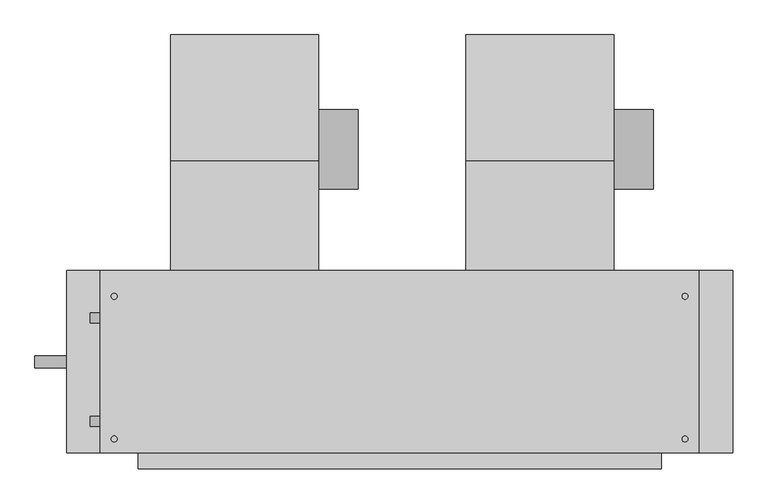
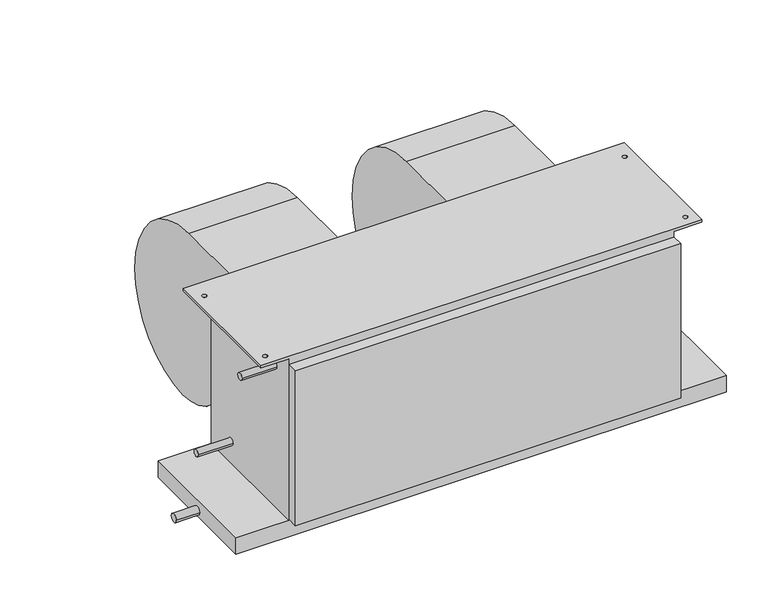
"""IFC4 building model written with IfcOpenShell, lengths in millimetres: proxy geometry, Concealed_High_Capacity_Horizontal_Fan_Coil_Unit_-_42DAA_-_CARRIER_-_2-Pipe_Cool-EHeat_LH_2022 : Size 14 - 277v/60Hz/1Ph - 6 Row 10.0kW."""

from ifc_helpers import new_model, si_unit, point, frame, frame_2d, origin, place, context, project, spatial, polyline, circle_curve, trimmed, segment, composite_curve, outline, extrude, source, transform, mapped, element, save
from ifc_brep_helpers import plane_surface, cylinder_surface, revolved_surface, advanced_brep


def mechanical_equipment_d59f8dc6(model_context):
    return source(origin(), model_context, "Body", "SolidModel", [
        extrude(outline(composite_curve([segment(trimmed(circle_curve(frame_2d((102.0007598, -206.8897468)), 63.5), [point((165.5007598, -206.8897468))], [point((38.5007598, -206.8897468))], False, "CARTESIAN"), True, "CONTINUOUS"), segment(trimmed(circle_curve(frame_2d((102.0007598, -206.8897468)), 63.5), [point((38.5007598, -206.8897468))], [point((165.5007598, -206.8897468))], False, "CARTESIAN"), True, "CONTINUOUS")], self_intersect=False)), frame((22.225, 0.0, 0.0), z_axis=(1.0, 0.0, 0.0), x_axis=(0.0, 1.0, 0.0)), (0.0, 0.0, 1.0), 63.5),
        advanced_brep(
        [(-214.249, 285.5155957, -222.029602), (-214.249, 104.6226, -403.64664), (-214.249, -50.9016, -277.10638), (-214.249, -92.075, -277.10638), (-214.249, -92.075, -19.05), (-214.249, 83.0080093, -19.05), (22.225, 285.5155957, -222.029602), (22.225, 83.0080093, -19.05), (22.225, -92.075, -19.05), (22.225, -92.075, -277.10638), (22.225, -50.9016, -277.10638), (22.225, 104.622599, -403.6457839)],
        [
            (0, 1, circle_curve(frame((-214.249, 104.44226, -222.57258), z_axis=(-1.0, 0.0, 0.0), x_axis=(0.0, -1.0, 0.0)), 181.0741498)),
            (1, 2, circle_curve(frame((-214.249, 104.44226, -245.02364), z_axis=(-1.0, 0.0, 0.0), x_axis=(0.0, -1.0, 0.0)), 158.6222464)),
            (2, 3),
            (3, 4),
            (4, 5),
            (5, 0, circle_curve(frame((-214.249, 81.9912, -222.57258), z_axis=(-1.0, 0.0, 0.0), x_axis=(0.0, -1.0, 0.0)), 203.52512)),
            (6, 7, circle_curve(frame((22.225, 81.9912, -222.57258), z_axis=(1.0, 0.0, 0.0), x_axis=(0.0, -1.0, 0.0)), 203.52512)),
            (7, 8),
            (8, 9),
            (9, 10),
            (10, 11, circle_curve(frame((22.225, 104.44226, -245.02364), z_axis=(1.0, 0.0, 0.0), x_axis=(0.0, -1.0, 0.0)), 158.6222464)),
            (11, 6, circle_curve(frame((22.225, 104.44226, -222.57258), z_axis=(1.0, 0.0, 0.0), x_axis=(0.0, -1.0, 0.0)), 181.0741498)),
            (0, 6),
            (11, 1),
            (10, 2),
            (9, 3),
            (8, 4),
            (7, 5),
        ],
        [
            plane_surface(frame((-214.249, -76.6318898, -222.57258), z_axis=(-1.0, 0.0, 0.0), x_axis=(0.0, 0.0, 1.0))),
            plane_surface(frame((22.225, -76.6318898, -222.57258), z_axis=(1.0, 0.0, 0.0), x_axis=(0.0, 0.0, -1.0))),
            cylinder_surface(frame((22.225, 104.44226, -222.57258), z_axis=(-1.0, 0.0, 0.0), x_axis=(0.0, -1.0, 0.0)), 181.0741498),
            cylinder_surface(frame((22.225, 104.44226, -245.02364), z_axis=(-1.0, 0.0, 0.0), x_axis=(0.0, -1.0, 0.0)), 158.6222464),
            plane_surface(frame((-214.249, -50.9016, -277.10638), z_axis=(0.0, 0.0, -1.0), x_axis=(1.0, 0.0, 0.0))),
            plane_surface(frame((-214.249, -92.075, -277.10638), z_axis=(0.0, -1.0, 0.0), x_axis=(1.0, 0.0, 0.0))),
            plane_surface(frame((-214.249, -92.075, -19.05), z_axis=(0.0, 0.0, 1.0), x_axis=(1.0, 0.0, 0.0))),
            cylinder_surface(frame((22.225, 81.9912, -222.57258), z_axis=(-1.0, 0.0, 0.0), x_axis=(0.0, -1.0, 0.0)), 203.52512),
        ],
        [
            (0, [[1, 2, 3, 4, 5, 6]]),
            (1, [[7, 8, 9, 10, 11, 12]]),
            (2, [[-1, 13, -12, 14]]),
            (3, [[-2, -14, -11, 15]]),
            (4, [[-3, -15, -10, 16]]),
            (5, [[-4, -16, -9, 17]]),
            (6, [[-5, -17, -8, 18]]),
            (7, [[-6, -18, -7, -13]]),
        ],
    ),
        extrude(outline(composite_curve([segment(trimmed(circle_curve(frame_2d((102.0007598, -206.8897468)), 63.5), [point((165.5007598, -206.8897468))], [point((38.5007598, -206.8897468))], False, "CARTESIAN"), True, "CONTINUOUS"), segment(trimmed(circle_curve(frame_2d((102.0007598, -206.8897468)), 63.5), [point((38.5007598, -206.8897468))], [point((165.5007598, -206.8897468))], False, "CARTESIAN"), True, "CONTINUOUS")], self_intersect=False)), frame((495.3, 0.0, 0.0), z_axis=(1.0, 0.0, 0.0), x_axis=(0.0, 1.0, 0.0)), (0.0, 0.0, 1.0), 63.5),
        advanced_brep(
        [(258.826, 285.5155957, -222.029602), (258.826, 104.6226, -403.64664), (258.826, -50.9016, -277.10638), (258.826, -92.075, -277.10638), (258.826, -92.075, -19.05), (258.826, 83.0080093, -19.05), (495.3, 285.5155957, -222.029602), (495.3, 83.0080093, -19.05), (495.3, -92.075, -19.05), (495.3, -92.075, -277.10638), (495.3, -50.9016, -277.10638), (495.3, 104.622599, -403.6457839)],
        [
            (0, 1, circle_curve(frame((258.826, 104.44226, -222.57258), z_axis=(-1.0, 0.0, 0.0), x_axis=(0.0, -1.0, 0.0)), 181.0741498)),
            (1, 2, circle_curve(frame((258.826, 104.44226, -245.02364), z_axis=(-1.0, 0.0, 0.0), x_axis=(0.0, -1.0, 0.0)), 158.6222464)),
            (2, 3),
            (3, 4),
            (4, 5),
            (5, 0, circle_curve(frame((258.826, 81.9912, -222.57258), z_axis=(-1.0, 0.0, 0.0), x_axis=(0.0, -1.0, 0.0)), 203.52512)),
            (6, 7, circle_curve(frame((495.3, 81.9912, -222.57258), z_axis=(1.0, 0.0, 0.0), x_axis=(0.0, -1.0, 0.0)), 203.52512)),
            (7, 8),
            (8, 9),
            (9, 10),
            (10, 11, circle_curve(frame((495.3, 104.44226, -245.02364), z_axis=(1.0, 0.0, 0.0), x_axis=(0.0, -1.0, 0.0)), 158.6222464)),
            (11, 6, circle_curve(frame((495.3, 104.44226, -222.57258), z_axis=(1.0, 0.0, 0.0), x_axis=(0.0, -1.0, 0.0)), 181.0741498)),
            (0, 6),
            (11, 1),
            (10, 2),
            (9, 3),
            (8, 4),
            (7, 5),
        ],
        [
            plane_surface(frame((258.826, -76.6318898, -222.57258), z_axis=(-1.0, 0.0, 0.0), x_axis=(0.0, 0.0, 1.0))),
            plane_surface(frame((495.3, -76.6318898, -222.57258), z_axis=(1.0, 0.0, 0.0), x_axis=(0.0, 0.0, -1.0))),
            cylinder_surface(frame((495.3, 104.44226, -222.57258), z_axis=(-1.0, 0.0, 0.0), x_axis=(0.0, -1.0, 0.0)), 181.0741498),
            cylinder_surface(frame((495.3, 104.44226, -245.02364), z_axis=(-1.0, 0.0, 0.0), x_axis=(0.0, -1.0, 0.0)), 158.6222464),
            plane_surface(frame((258.826, -50.9016, -277.10638), z_axis=(0.0, 0.0, -1.0), x_axis=(1.0, 0.0, 0.0))),
            plane_surface(frame((258.826, -92.075, -277.10638), z_axis=(0.0, -1.0, 0.0), x_axis=(1.0, 0.0, 0.0))),
            plane_surface(frame((258.826, -92.075, -19.05), z_axis=(0.0, 0.0, 1.0), x_axis=(1.0, 0.0, 0.0))),
            cylinder_surface(frame((495.3, 81.9912, -222.57258), z_axis=(-1.0, 0.0, 0.0), x_axis=(0.0, -1.0, 0.0)), 203.52512),
        ],
        [
            (0, [[1, 2, 3, 4, 5, 6]]),
            (1, [[7, 8, 9, 10, 11, 12]]),
            (2, [[-1, 13, -12, 14]]),
            (3, [[-2, -14, -11, 15]]),
            (4, [[-3, -15, -10, 16]]),
            (5, [[-4, -16, -9, 17]]),
            (6, [[-5, -17, -8, 18]]),
            (7, [[-6, -18, -7, -13]]),
        ],
    ),
        advanced_brep(
        [(631.825, -92.075, -6.35), (631.825, -384.175, -6.35), (571.5, -384.175, -6.35), (571.5, -92.075, -6.35), (604.8375, -133.35, -6.35), (614.3625, -133.35, -6.35), (604.8375, -361.95, -6.35), (614.3625, -361.95, -6.35), (-327.025, -92.075, -6.35), (-266.7, -92.075, -6.35), (-266.7, -384.175, -6.35), (-327.025, -384.175, -6.35), (-309.5625, -133.35, -6.35), (-300.0375, -133.35, -6.35), (-309.5625, -361.95, -6.35), (-300.0375, -361.95, -6.35), (631.825, -384.175, 0.0), (631.825, -92.075, 0.0), (-327.025, -92.075, 0.0), (-327.025, -384.175, 0.0), (-300.0375, -133.35, 0.0), (-309.5625, -133.35, 0.0), (-300.0375, -361.95, 0.0), (-309.5625, -361.95, 0.0), (614.3625, -133.35, 0.0), (604.8375, -133.35, 0.0), (614.3625, -361.95, 0.0), (604.8375, -361.95, 0.0), (571.5, -92.075, -377.825), (-266.7, -92.075, -377.825), (-266.7, -384.175, -377.825), (571.5, -384.175, -377.825)],
        [
            (0, 1),
            (1, 2),
            (2, 3),
            (3, 0),
            (4, 5, circle_curve(frame((609.6, -133.35, -6.35), z_axis=(0.0, 0.0, 1.0), x_axis=(1.0, 0.0, 0.0)), 4.7625)),
            (5, 4, circle_curve(frame((609.6, -133.35, -6.35), z_axis=(0.0, 0.0, 1.0), x_axis=(1.0, 0.0, 0.0)), 4.7625)),
            (6, 7, circle_curve(frame((609.6, -361.95, -6.35), z_axis=(0.0, 0.0, 1.0), x_axis=(1.0, 0.0, 0.0)), 4.7625)),
            (7, 6, circle_curve(frame((609.6, -361.95, -6.35), z_axis=(0.0, 0.0, 1.0), x_axis=(1.0, 0.0, 0.0)), 4.7625)),
            (8, 9),
            (9, 10),
            (10, 11),
            (11, 8),
            (12, 13, circle_curve(frame((-304.8, -133.35, -6.35), z_axis=(0.0, 0.0, 1.0), x_axis=(1.0, 0.0, 0.0)), 4.7625)),
            (13, 12, circle_curve(frame((-304.8, -133.35, -6.35), z_axis=(0.0, 0.0, 1.0), x_axis=(1.0, 0.0, 0.0)), 4.7625)),
            (14, 15, circle_curve(frame((-304.8, -361.95, -6.35), z_axis=(0.0, 0.0, 1.0), x_axis=(1.0, 0.0, 0.0)), 4.7625)),
            (15, 14, circle_curve(frame((-304.8, -361.95, -6.35), z_axis=(0.0, 0.0, 1.0), x_axis=(1.0, 0.0, 0.0)), 4.7625)),
            (16, 17),
            (17, 18),
            (18, 19),
            (19, 16),
            (20, 21, circle_curve(frame((-304.8, -133.35, 0.0), z_axis=(0.0, 0.0, -1.0), x_axis=(1.0, 0.0, 0.0)), 4.7625)),
            (21, 20, circle_curve(frame((-304.8, -133.35, 0.0), z_axis=(0.0, 0.0, -1.0), x_axis=(1.0, 0.0, 0.0)), 4.7625)),
            (22, 23, circle_curve(frame((-304.8, -361.95, 0.0), z_axis=(0.0, 0.0, -1.0), x_axis=(1.0, 0.0, 0.0)), 4.7625)),
            (23, 22, circle_curve(frame((-304.8, -361.95, 0.0), z_axis=(0.0, 0.0, -1.0), x_axis=(1.0, 0.0, 0.0)), 4.7625)),
            (24, 25, circle_curve(frame((609.6, -133.35, 0.0), z_axis=(0.0, 0.0, -1.0), x_axis=(1.0, 0.0, 0.0)), 4.7625)),
            (25, 24, circle_curve(frame((609.6, -133.35, 0.0), z_axis=(0.0, 0.0, -1.0), x_axis=(1.0, 0.0, 0.0)), 4.7625)),
            (26, 27, circle_curve(frame((609.6, -361.95, 0.0), z_axis=(0.0, 0.0, -1.0), x_axis=(1.0, 0.0, 0.0)), 4.7625)),
            (27, 26, circle_curve(frame((609.6, -361.95, 0.0), z_axis=(0.0, 0.0, -1.0), x_axis=(1.0, 0.0, 0.0)), 4.7625)),
            (3, 28),
            (28, 29),
            (29, 9),
            (8, 18),
            (17, 0),
            (1, 16),
            (19, 11),
            (10, 30),
            (30, 31),
            (31, 2),
            (28, 31),
            (30, 29),
            (20, 13),
            (12, 21),
            (22, 15),
            (14, 23),
            (24, 5),
            (4, 25),
            (26, 7),
            (6, 27),
        ],
        [
            plane_surface(frame((571.5, -92.075, -6.35), z_axis=(0.0, 0.0, -1.0), x_axis=(1.0, 0.0, 0.0))),
            plane_surface(frame((571.5, -92.075, 0.0), z_axis=(0.0, 0.0, 1.0), x_axis=(-1.0, 0.0, 0.0))),
            plane_surface(frame((631.825, -92.075, 0.0), z_axis=(0.0, 1.0, 0.0), x_axis=(0.0, 0.0, -1.0))),
            plane_surface(frame((571.5, -384.175, 0.0), z_axis=(0.0, -1.0, 0.0), x_axis=(0.0, 0.0, -1.0))),
            plane_surface(frame((631.825, -384.175, 0.0), z_axis=(1.0, 0.0, 0.0), x_axis=(0.0, 0.0, -1.0))),
            plane_surface(frame((-327.025, -92.075, 0.0), z_axis=(-1.0, 0.0, 0.0), x_axis=(0.0, 0.0, -1.0))),
            plane_surface(frame((-266.7, -92.075, -377.825), z_axis=(0.0, 0.0, -1.0), x_axis=(1.0, 0.0, 0.0))),
            plane_surface(frame((-266.7, -92.075, 0.0), z_axis=(-1.0, 0.0, 0.0), x_axis=(0.0, 0.0, -1.0))),
            plane_surface(frame((571.5, -384.175, 0.0), z_axis=(1.0, 0.0, 0.0), x_axis=(0.0, 0.0, -1.0))),
            revolved_surface(polyline([(-300.0375, -133.35, 0.0), (-300.0375, -133.35, -6.35)]), (-304.8, -133.35, -6.35), (0.0, 0.0, 1.0)),
            revolved_surface(polyline([(-300.0375, -361.95, 0.0), (-300.0375, -361.95, -6.35)]), (-304.8, -361.95, 0.0), (0.0, 0.0, 1.0)),
            revolved_surface(polyline([(614.3625000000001, -133.35, 0.0), (614.3625000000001, -133.35, -6.35)]), (609.6, -133.35, 0.0), (0.0, 0.0, 1.0)),
            revolved_surface(polyline([(614.3625000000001, -361.95, 0.0), (614.3625000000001, -361.95, -6.35)]), (609.6, -361.95, 0.0), (0.0, 0.0, 1.0)),
        ],
        [
            (0, [[1, 2, 3, 4], [5, 6], [7, 8]]),
            (0, [[9, 10, 11, 12], [13, 14], [15, 16]]),
            (1, [[17, 18, 19, 20], [21, 22], [23, 24], [25, 26], [27, 28]]),
            (2, [[-4, 29, 30, 31, -9, 32, -18, 33]]),
            (3, [[-2, 34, -20, 35, -11, 36, 37, 38]]),
            (4, [[-1, -33, -17, -34]]),
            (5, [[-12, -35, -19, -32]]),
            (6, [[39, -37, 40, -30]]),
            (7, [[-40, -36, -10, -31]]),
            (8, [[-39, -29, -3, -38]]),
            (9, [[41, -13, 42, -21]]),
            (9, [[-41, -22, -42, -14]]),
            (10, [[43, -15, 44, -23]]),
            (10, [[-43, -24, -44, -16]]),
            (11, [[45, -5, 46, -25]]),
            (11, [[-45, -26, -46, -6]]),
            (12, [[47, -7, 48, -27]]),
            (12, [[-47, -28, -48, -8]]),
        ],
    ),
        extrude(outline(composite_curve([segment(trimmed(circle_curve(frame_2d((-238.125, -403.225)), 9.525), [point((-247.65, -403.225))], [point((-228.6, -403.225))], False, "CARTESIAN"), True, "CONTINUOUS"), segment(trimmed(circle_curve(frame_2d((-238.125, -403.225)), 9.525), [point((-228.6, -403.225))], [point((-247.65, -403.225))], False, "CARTESIAN"), True, "CONTINUOUS")], self_intersect=False)), frame((-431.8, 0.0, 0.0), z_axis=(1.0, 0.0, 0.0), x_axis=(0.0, 1.0, 0.0)), (0.0, 0.0, 1.0), 50.8),
        extrude(outline(composite_curve([segment(trimmed(circle_curve(frame_2d((-333.375, -50.8)), 7.9375), [point((-341.3125, -50.8))], [point((-325.4375, -50.8))], False, "CARTESIAN"), True, "CONTINUOUS"), segment(trimmed(circle_curve(frame_2d((-333.375, -50.8)), 7.9375), [point((-325.4375, -50.8))], [point((-341.3125, -50.8))], False, "CARTESIAN"), True, "CONTINUOUS")], self_intersect=False)), frame((-342.9, 0.0, 0.0), z_axis=(1.0, 0.0, 0.0), x_axis=(0.0, 1.0, 0.0)), (0.0, 0.0, 1.0), 76.2),
        extrude(outline(composite_curve([segment(trimmed(circle_curve(frame_2d((-168.275, -327.025)), 7.9375), [point((-176.2125, -327.025))], [point((-160.3375, -327.025))], False, "CARTESIAN"), True, "CONTINUOUS"), segment(trimmed(circle_curve(frame_2d((-168.275, -327.025)), 7.9375), [point((-160.3375, -327.025))], [point((-176.2125, -327.025))], False, "CARTESIAN"), True, "CONTINUOUS")], self_intersect=False)), frame((-342.9, 0.0, 0.0), z_axis=(1.0, 0.0, 0.0), x_axis=(0.0, 1.0, 0.0)), (0.0, 0.0, 1.0), 76.2),
        extrude(outline(polyline([(571.5, -409.575), (-266.7, -409.575), (-266.7, -384.175), (571.5, -384.175), (571.5, -409.575)])), frame((0.0, 0.0, -374.65), z_axis=(0.0, 0.0, 1.0), x_axis=(1.0, 0.0, 0.0)), (0.0, 0.0, 1.0), 355.6),
        extrude(outline(polyline([(685.8, -92.075), (685.8, -384.175), (-381.0, -384.175), (-381.0, -92.075), (685.8, -92.075)])), frame((0.0, 0.0, -415.925), z_axis=(0.0, 0.0, 1.0), x_axis=(1.0, 0.0, 0.0)), (0.0, 0.0, 1.0), 38.1),
    ])


if __name__ == "__main__":
    model = new_model("IFC4")
    model_context = context("Model", 3, world=origin())
    ifc_project = project(units=[si_unit("LENGTHUNIT", "METRE", prefix="MILLI")], contexts=[model_context])
    site = spatial("IfcSite", under=ifc_project)
    building = spatial("IfcBuilding", under=site)
    placement = place(None, origin())
    mechanical_equipment_shape = mechanical_equipment_d59f8dc6(model_context)
    element("IfcBuildingElementProxy", 1, Name="Concealed_High_Capacity_Horizontal_Fan_Coil_Unit_-_42DAA_-_CARRIER_-_2-Pipe_Cool-EHeat_LH_2022 : Size 14 - 277v/60Hz/1Ph - 6 Row 10.0kW", ObjectType="Concealed_High_Capacity_Horizontal_Fan_Coil_Unit_-_42DAA_-_CARRIER_-_2-Pipe_Cool-EHeat_LH_2022 : Size 14 - 277v/60Hz/1Ph - 6 Row 10.0kW", at=placement, inside=building, context=model_context, shape_type="MappedRepresentation", body=[
        mapped(mechanical_equipment_shape, transform((0.0, 0.0, 0.0), x_axis=(1.0, 0.0, 0.0), y_axis=(0.0, 1.0, 0.0), z_axis=(0.0, 0.0, 1.0))),
    ])
    save(model, "model.ifc")
